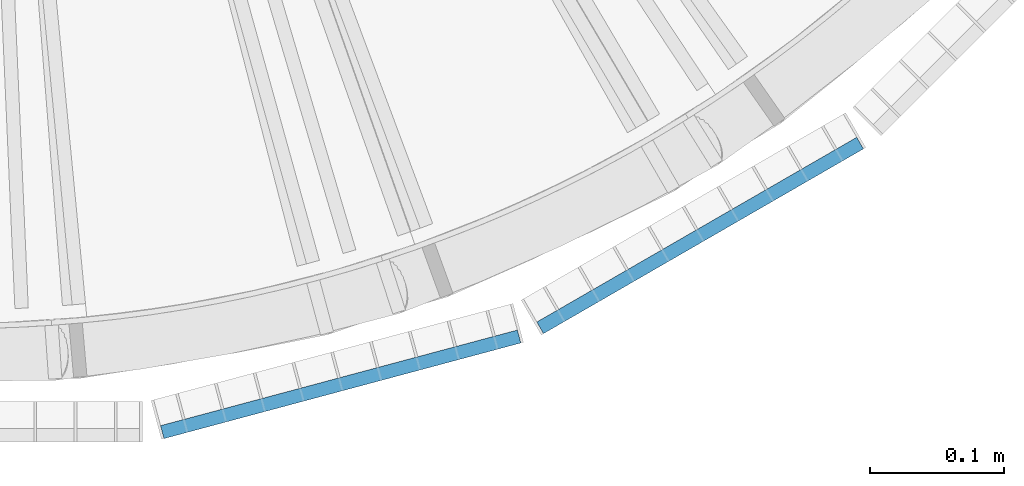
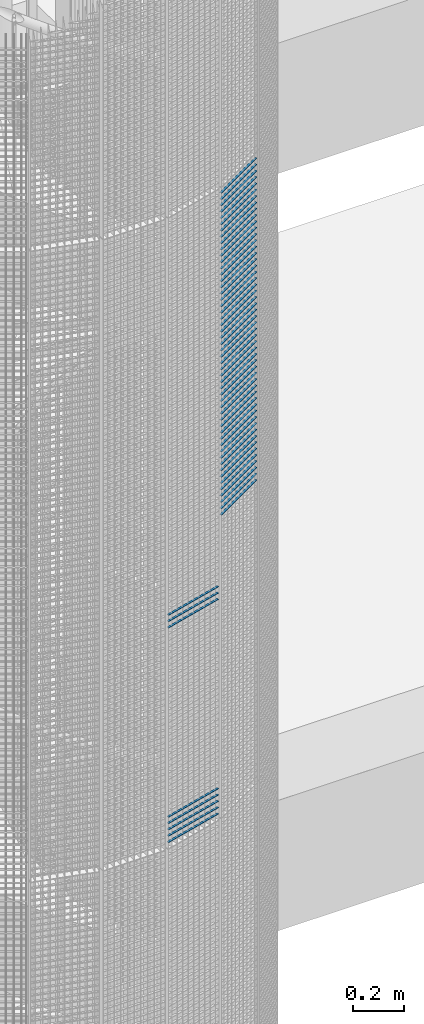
# One storey, part 391 of 1148: 60 beams, 2 elements without a shape of their own.
"""IFC2X3 building model written with IfcOpenShell, lengths in millimetres."""

from ifc_helpers import new_model, si_unit, frame, origin_with_axes, origin_2d_with_axis, place, context, subcontext, project, spatial, rectangle, extrude, material, type_object, element, aggregate, save


model = new_model("IFC2X3")

# Units and contexts
model_context = context("Model", 3, precision=1e-05, world=origin_with_axes())
body_context = subcontext(model_context, "Body", "Model", "MODEL_VIEW")
ifc_project = project(units=[si_unit("LENGTHUNIT", "METRE", prefix="MILLI"), si_unit("AREAUNIT", "SQUARE_METRE"), si_unit("VOLUMEUNIT", "CUBIC_METRE"), si_unit("MASSUNIT", "GRAM", prefix="KILO"), si_unit("TIMEUNIT", "SECOND"), si_unit("PLANEANGLEUNIT", "RADIAN"), si_unit("SOLIDANGLEUNIT", "STERADIAN"), si_unit("THERMODYNAMICTEMPERATUREUNIT", "DEGREE_CELSIUS"), si_unit("LUMINOUSINTENSITYUNIT", "LUMEN")], contexts=[model_context])

# Site, building, storey
site_placement = place(None, origin_with_axes())
site = spatial("IfcSite", under=ifc_project, at=site_placement, Name="Undefined", CompositionType="ELEMENT")
building_placement = place(site_placement, origin_with_axes())
building = spatial("IfcBuilding", under=site, at=building_placement, Name="Undefined", CompositionType="ELEMENT")
storey_placement = place(building_placement, origin_with_axes())
storey = spatial("IfcBuildingStorey", under=building, at=storey_placement, Name="Undefined", CompositionType="ELEMENT", Elevation=0.0)

# Assembly, beams
assembly_1_placement = place(storey_placement, origin_with_axes())
assembly_1 = element("IfcElementAssembly", 1, at=assembly_1_placement, inside=storey, Name="BORDURE", AssemblyPlace="NOTDEFINED", PredefinedType="NOTDEFINED")
ifc_material = material(Name="STEEL/S235JR")
beam_type = type_object("IfcBeamType", Name="PL2*10", PredefinedType="NOTDEFINED")
beam_1_placement = place(assembly_1_placement, frame((22021.4837339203, -1039.82309522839, 10050.0), z_axis=(0.258819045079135, -0.965925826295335, 0.0), x_axis=(-0.965925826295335, -0.258819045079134, 0.0)))
beam_1 = element("IfcBeam", 2, at=beam_1_placement, type_object=beam_type, material=ifc_material, Name="ENTRETOISE", context=body_context, shape_type="SweptSolid", body=[
    extrude(rectangle(XDim=2.0, YDim=10.0, at=origin_2d_with_axis()), frame((275.999999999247, 9.09494701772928e-13, 1.53210777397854e-14), z_axis=(-1.0, 0.0, 0.0), x_axis=(0.0, -1.0, 0.0)), (0.0, 0.0, 1.0), 276.0),
])
beam_2_placement = place(assembly_1_placement, frame((22021.4837339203, -1039.82309522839, 9150.0), z_axis=(0.258819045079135, -0.965925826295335, 0.0), x_axis=(-0.965925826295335, -0.258819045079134, 0.0)))
beam_2 = element("IfcBeam", 3, at=beam_2_placement, type_object=beam_type, material=ifc_material, Name="ENTRETOISE", context=body_context, shape_type="SweptSolid", body=[
    extrude(rectangle(XDim=2.0, YDim=10.0, at=origin_2d_with_axis()), frame((275.999999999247, 9.09494701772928e-13, 1.53210777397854e-14), z_axis=(-1.0, 0.0, 0.0), x_axis=(0.0, -1.0, 0.0)), (0.0, 0.0, 1.0), 276.0),
])
beam_3_placement = place(assembly_1_placement, frame((22021.4837339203, -1039.82309522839, 9120.0), z_axis=(0.258819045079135, -0.965925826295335, 0.0), x_axis=(-0.965925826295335, -0.258819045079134, 0.0)))
beam_3 = element("IfcBeam", 4, at=beam_3_placement, type_object=beam_type, material=ifc_material, Name="ENTRETOISE", context=body_context, shape_type="SweptSolid", body=[
    extrude(rectangle(XDim=2.0, YDim=10.0, at=origin_2d_with_axis()), frame((275.999999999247, 9.09494701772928e-13, 1.53210777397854e-14), z_axis=(-1.0, 0.0, 0.0), x_axis=(0.0, -1.0, 0.0)), (0.0, 0.0, 1.0), 276.0),
])
beam_4_placement = place(assembly_1_placement, frame((22021.4837339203, -1039.82309522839, 10080.0), z_axis=(0.258819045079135, -0.965925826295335, 0.0), x_axis=(-0.965925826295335, -0.258819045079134, 0.0)))
beam_4 = element("IfcBeam", 5, at=beam_4_placement, type_object=beam_type, material=ifc_material, Name="ENTRETOISE", context=body_context, shape_type="SweptSolid", body=[
    extrude(rectangle(XDim=2.0, YDim=10.0, at=origin_2d_with_axis()), frame((275.999999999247, 9.09494701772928e-13, 1.53210777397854e-14), z_axis=(-1.0, 0.0, 0.0), x_axis=(0.0, -1.0, 0.0)), (0.0, 0.0, 1.0), 276.0),
])
beam_5_placement = place(assembly_1_placement, frame((22021.4837339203, -1039.82309522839, 9090.0), z_axis=(0.258819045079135, -0.965925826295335, 0.0), x_axis=(-0.965925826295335, -0.258819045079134, 0.0)))
beam_5 = element("IfcBeam", 6, at=beam_5_placement, type_object=beam_type, material=ifc_material, Name="ENTRETOISE", context=body_context, shape_type="SweptSolid", body=[
    extrude(rectangle(XDim=2.0, YDim=10.0, at=origin_2d_with_axis()), frame((275.999999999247, 9.09494701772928e-13, 1.53210777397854e-14), z_axis=(-1.0, 0.0, 0.0), x_axis=(0.0, -1.0, 0.0)), (0.0, 0.0, 1.0), 276.0),
])
beam_6_placement = place(assembly_1_placement, frame((22021.4837339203, -1039.82309522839, 9060.0), z_axis=(0.258819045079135, -0.965925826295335, 0.0), x_axis=(-0.965925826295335, -0.258819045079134, 0.0)))
beam_6 = element("IfcBeam", 7, at=beam_6_placement, type_object=beam_type, material=ifc_material, Name="ENTRETOISE", context=body_context, shape_type="SweptSolid", body=[
    extrude(rectangle(XDim=2.0, YDim=10.0, at=origin_2d_with_axis()), frame((275.999999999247, 9.09494701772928e-13, 1.53210777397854e-14), z_axis=(-1.0, 0.0, 0.0), x_axis=(0.0, -1.0, 0.0)), (0.0, 0.0, 1.0), 276.0),
])
beam_7_placement = place(assembly_1_placement, frame((22021.4837339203, -1039.82309522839, 10110.0), z_axis=(0.258819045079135, -0.965925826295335, 0.0), x_axis=(-0.965925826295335, -0.258819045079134, 0.0)))
beam_7 = element("IfcBeam", 8, at=beam_7_placement, type_object=beam_type, material=ifc_material, Name="ENTRETOISE", context=body_context, shape_type="SweptSolid", body=[
    extrude(rectangle(XDim=2.0, YDim=10.0, at=origin_2d_with_axis()), frame((275.999999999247, 9.09494701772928e-13, 1.53210777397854e-14), z_axis=(-1.0, 0.0, 0.0), x_axis=(0.0, -1.0, 0.0)), (0.0, 0.0, 1.0), 276.0),
])
beam_8_placement = place(assembly_1_placement, frame((22021.4837339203, -1039.82309522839, 9030.0), z_axis=(0.258819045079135, -0.965925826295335, 0.0), x_axis=(-0.965925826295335, -0.258819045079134, 0.0)))
beam_8 = element("IfcBeam", 9, at=beam_8_placement, type_object=beam_type, material=ifc_material, Name="ENTRETOISE", context=body_context, shape_type="SweptSolid", body=[
    extrude(rectangle(XDim=2.0, YDim=10.0, at=origin_2d_with_axis()), frame((275.999999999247, 9.09494701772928e-13, 1.53210777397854e-14), z_axis=(-1.0, 0.0, 0.0), x_axis=(0.0, -1.0, 0.0)), (0.0, 0.0, 1.0), 276.0),
])
aggregate(assembly_1, [beam_1, beam_2, beam_3, beam_4, beam_5, beam_6, beam_7, beam_8])

assembly_2_placement = place(storey_placement, origin_with_axes())
assembly_2 = element("IfcElementAssembly", 10, at=assembly_2_placement, inside=storey, Name="BORDURE", AssemblyPlace="NOTDEFINED", PredefinedType="NOTDEFINED")
beam_9_placement = place(assembly_2_placement, frame((22276.2480445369, -895.303964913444, 11970.0), z_axis=(0.499999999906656, -0.866025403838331, 0.0), x_axis=(-0.866025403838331, -0.499999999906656, 0.0)))
beam_9 = element("IfcBeam", 11, at=beam_9_placement, type_object=beam_type, material=ifc_material, Name="ENTRETOISE", context=body_context, shape_type="SweptSolid", body=[
    extrude(rectangle(XDim=2.0, YDim=10.0, at=origin_2d_with_axis()), frame((275.999999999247, 9.09494701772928e-13, 1.53210777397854e-14), z_axis=(-1.0, 0.0, 0.0), x_axis=(0.0, -1.0, 0.0)), (0.0, 0.0, 1.0), 276.0),
])
beam_10_placement = place(assembly_2_placement, frame((22276.2480445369, -895.303964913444, 11940.0), z_axis=(0.499999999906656, -0.866025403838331, 0.0), x_axis=(-0.866025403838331, -0.499999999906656, 0.0)))
beam_10 = element("IfcBeam", 12, at=beam_10_placement, type_object=beam_type, material=ifc_material, Name="ENTRETOISE", context=body_context, shape_type="SweptSolid", body=[
    extrude(rectangle(XDim=2.0, YDim=10.0, at=origin_2d_with_axis()), frame((275.999999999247, 9.09494701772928e-13, 1.53210777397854e-14), z_axis=(-1.0, 0.0, 0.0), x_axis=(0.0, -1.0, 0.0)), (0.0, 0.0, 1.0), 276.0),
])
beam_11_placement = place(assembly_2_placement, frame((22276.2480445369, -895.303964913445, 11910.0), z_axis=(0.499999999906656, -0.866025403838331, 0.0), x_axis=(-0.866025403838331, -0.499999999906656, 0.0)))
beam_11 = element("IfcBeam", 13, at=beam_11_placement, type_object=beam_type, material=ifc_material, Name="ENTRETOISE", context=body_context, shape_type="SweptSolid", body=[
    extrude(rectangle(XDim=2.0, YDim=10.0, at=origin_2d_with_axis()), frame((275.999999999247, 9.09494701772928e-13, 1.53210777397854e-14), z_axis=(-1.0, 0.0, 0.0), x_axis=(0.0, -1.0, 0.0)), (0.0, 0.0, 1.0), 276.0),
])
beam_12_placement = place(assembly_2_placement, frame((22276.2480445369, -895.303964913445, 11880.0), z_axis=(0.499999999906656, -0.866025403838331, 0.0), x_axis=(-0.866025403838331, -0.499999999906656, 0.0)))
beam_12 = element("IfcBeam", 14, at=beam_12_placement, type_object=beam_type, material=ifc_material, Name="ENTRETOISE", context=body_context, shape_type="SweptSolid", body=[
    extrude(rectangle(XDim=2.0, YDim=10.0, at=origin_2d_with_axis()), frame((275.999999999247, 9.09494701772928e-13, 1.53210777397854e-14), z_axis=(-1.0, 0.0, 0.0), x_axis=(0.0, -1.0, 0.0)), (0.0, 0.0, 1.0), 276.0),
])
beam_13_placement = place(assembly_2_placement, frame((22276.2480445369, -895.303964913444, 11850.0), z_axis=(0.499999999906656, -0.866025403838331, 0.0), x_axis=(-0.866025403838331, -0.499999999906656, 0.0)))
beam_13 = element("IfcBeam", 15, at=beam_13_placement, type_object=beam_type, material=ifc_material, Name="ENTRETOISE", context=body_context, shape_type="SweptSolid", body=[
    extrude(rectangle(XDim=2.0, YDim=10.0, at=origin_2d_with_axis()), frame((275.999999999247, 9.09494701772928e-13, 1.53210777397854e-14), z_axis=(-1.0, 0.0, 0.0), x_axis=(0.0, -1.0, 0.0)), (0.0, 0.0, 1.0), 276.0),
])
beam_14_placement = place(assembly_2_placement, frame((22276.2480445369, -895.303964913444, 11820.0), z_axis=(0.499999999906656, -0.866025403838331, 0.0), x_axis=(-0.866025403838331, -0.499999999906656, 0.0)))
beam_14 = element("IfcBeam", 16, at=beam_14_placement, type_object=beam_type, material=ifc_material, Name="ENTRETOISE", context=body_context, shape_type="SweptSolid", body=[
    extrude(rectangle(XDim=2.0, YDim=10.0, at=origin_2d_with_axis()), frame((275.999999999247, 9.09494701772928e-13, 1.53210777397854e-14), z_axis=(-1.0, 0.0, 0.0), x_axis=(0.0, -1.0, 0.0)), (0.0, 0.0, 1.0), 276.0),
])
beam_15_placement = place(assembly_2_placement, frame((22276.2480445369, -895.303964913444, 11790.0), z_axis=(0.499999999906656, -0.866025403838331, 0.0), x_axis=(-0.866025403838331, -0.499999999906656, 0.0)))
beam_15 = element("IfcBeam", 17, at=beam_15_placement, type_object=beam_type, material=ifc_material, Name="ENTRETOISE", context=body_context, shape_type="SweptSolid", body=[
    extrude(rectangle(XDim=2.0, YDim=10.0, at=origin_2d_with_axis()), frame((275.999999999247, 9.09494701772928e-13, 1.53210777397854e-14), z_axis=(-1.0, 0.0, 0.0), x_axis=(0.0, -1.0, 0.0)), (0.0, 0.0, 1.0), 276.0),
])
beam_16_placement = place(assembly_2_placement, frame((22276.2480445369, -895.303964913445, 11760.0), z_axis=(0.499999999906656, -0.866025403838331, 0.0), x_axis=(-0.866025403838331, -0.499999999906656, 0.0)))
beam_16 = element("IfcBeam", 18, at=beam_16_placement, type_object=beam_type, material=ifc_material, Name="ENTRETOISE", context=body_context, shape_type="SweptSolid", body=[
    extrude(rectangle(XDim=2.0, YDim=10.0, at=origin_2d_with_axis()), frame((275.999999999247, 9.09494701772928e-13, 1.53210777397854e-14), z_axis=(-1.0, 0.0, 0.0), x_axis=(0.0, -1.0, 0.0)), (0.0, 0.0, 1.0), 276.0),
])
beam_17_placement = place(assembly_2_placement, frame((22276.2480445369, -895.303964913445, 11730.0), z_axis=(0.499999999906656, -0.866025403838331, 0.0), x_axis=(-0.866025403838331, -0.499999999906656, 0.0)))
beam_17 = element("IfcBeam", 19, at=beam_17_placement, type_object=beam_type, material=ifc_material, Name="ENTRETOISE", context=body_context, shape_type="SweptSolid", body=[
    extrude(rectangle(XDim=2.0, YDim=10.0, at=origin_2d_with_axis()), frame((275.999999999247, 9.09494701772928e-13, 1.53210777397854e-14), z_axis=(-1.0, 0.0, 0.0), x_axis=(0.0, -1.0, 0.0)), (0.0, 0.0, 1.0), 276.0),
])
beam_18_placement = place(assembly_2_placement, frame((22276.2480445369, -895.303964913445, 11700.0), z_axis=(0.499999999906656, -0.866025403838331, 0.0), x_axis=(-0.866025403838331, -0.499999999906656, 0.0)))
beam_18 = element("IfcBeam", 20, at=beam_18_placement, type_object=beam_type, material=ifc_material, Name="ENTRETOISE", context=body_context, shape_type="SweptSolid", body=[
    extrude(rectangle(XDim=2.0, YDim=10.0, at=origin_2d_with_axis()), frame((275.999999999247, 9.09494701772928e-13, 1.53210777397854e-14), z_axis=(-1.0, 0.0, 0.0), x_axis=(0.0, -1.0, 0.0)), (0.0, 0.0, 1.0), 276.0),
])
beam_19_placement = place(assembly_2_placement, frame((22276.2480445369, -895.303964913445, 11670.0), z_axis=(0.499999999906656, -0.866025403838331, 0.0), x_axis=(-0.866025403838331, -0.499999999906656, 0.0)))
beam_19 = element("IfcBeam", 21, at=beam_19_placement, type_object=beam_type, material=ifc_material, Name="ENTRETOISE", context=body_context, shape_type="SweptSolid", body=[
    extrude(rectangle(XDim=2.0, YDim=10.0, at=origin_2d_with_axis()), frame((275.999999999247, 9.09494701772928e-13, 1.53210777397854e-14), z_axis=(-1.0, 0.0, 0.0), x_axis=(0.0, -1.0, 0.0)), (0.0, 0.0, 1.0), 276.0),
])
beam_20_placement = place(assembly_2_placement, frame((22276.2480445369, -895.303964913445, 11640.0), z_axis=(0.499999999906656, -0.866025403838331, 0.0), x_axis=(-0.866025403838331, -0.499999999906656, 0.0)))
beam_20 = element("IfcBeam", 22, at=beam_20_placement, type_object=beam_type, material=ifc_material, Name="ENTRETOISE", context=body_context, shape_type="SweptSolid", body=[
    extrude(rectangle(XDim=2.0, YDim=10.0, at=origin_2d_with_axis()), frame((275.999999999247, 9.09494701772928e-13, 1.53210777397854e-14), z_axis=(-1.0, 0.0, 0.0), x_axis=(0.0, -1.0, 0.0)), (0.0, 0.0, 1.0), 276.0),
])
beam_21_placement = place(assembly_2_placement, frame((22276.2480445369, -895.303964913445, 11610.0), z_axis=(0.499999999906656, -0.866025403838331, 0.0), x_axis=(-0.866025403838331, -0.499999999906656, 0.0)))
beam_21 = element("IfcBeam", 23, at=beam_21_placement, type_object=beam_type, material=ifc_material, Name="ENTRETOISE", context=body_context, shape_type="SweptSolid", body=[
    extrude(rectangle(XDim=2.0, YDim=10.0, at=origin_2d_with_axis()), frame((275.999999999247, 9.09494701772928e-13, 1.53210777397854e-14), z_axis=(-1.0, 0.0, 0.0), x_axis=(0.0, -1.0, 0.0)), (0.0, 0.0, 1.0), 276.0),
])
beam_22_placement = place(assembly_2_placement, frame((22276.2480445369, -895.303964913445, 11580.0), z_axis=(0.499999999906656, -0.866025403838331, 0.0), x_axis=(-0.866025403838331, -0.499999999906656, 0.0)))
beam_22 = element("IfcBeam", 24, at=beam_22_placement, type_object=beam_type, material=ifc_material, Name="ENTRETOISE", context=body_context, shape_type="SweptSolid", body=[
    extrude(rectangle(XDim=2.0, YDim=10.0, at=origin_2d_with_axis()), frame((275.999999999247, 9.09494701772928e-13, 1.53210777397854e-14), z_axis=(-1.0, 0.0, 0.0), x_axis=(0.0, -1.0, 0.0)), (0.0, 0.0, 1.0), 276.0),
])
beam_23_placement = place(assembly_2_placement, frame((22276.2480445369, -895.303964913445, 11550.0), z_axis=(0.499999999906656, -0.866025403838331, 0.0), x_axis=(-0.866025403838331, -0.499999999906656, 0.0)))
beam_23 = element("IfcBeam", 25, at=beam_23_placement, type_object=beam_type, material=ifc_material, Name="ENTRETOISE", context=body_context, shape_type="SweptSolid", body=[
    extrude(rectangle(XDim=2.0, YDim=10.0, at=origin_2d_with_axis()), frame((275.999999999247, 9.09494701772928e-13, 1.53210777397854e-14), z_axis=(-1.0, 0.0, 0.0), x_axis=(0.0, -1.0, 0.0)), (0.0, 0.0, 1.0), 276.0),
])
beam_24_placement = place(assembly_2_placement, frame((22276.2480445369, -895.303964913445, 11520.0), z_axis=(0.499999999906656, -0.866025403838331, 0.0), x_axis=(-0.866025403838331, -0.499999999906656, 0.0)))
beam_24 = element("IfcBeam", 26, at=beam_24_placement, type_object=beam_type, material=ifc_material, Name="ENTRETOISE", context=body_context, shape_type="SweptSolid", body=[
    extrude(rectangle(XDim=2.0, YDim=10.0, at=origin_2d_with_axis()), frame((275.999999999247, 9.09494701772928e-13, 1.53210777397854e-14), z_axis=(-1.0, 0.0, 0.0), x_axis=(0.0, -1.0, 0.0)), (0.0, 0.0, 1.0), 276.0),
])
beam_25_placement = place(assembly_2_placement, frame((22276.2480445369, -895.303964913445, 11490.0), z_axis=(0.499999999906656, -0.866025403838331, 0.0), x_axis=(-0.866025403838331, -0.499999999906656, 0.0)))
beam_25 = element("IfcBeam", 27, at=beam_25_placement, type_object=beam_type, material=ifc_material, Name="ENTRETOISE", context=body_context, shape_type="SweptSolid", body=[
    extrude(rectangle(XDim=2.0, YDim=10.0, at=origin_2d_with_axis()), frame((275.999999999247, 9.09494701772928e-13, 1.53210777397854e-14), z_axis=(-1.0, 0.0, 0.0), x_axis=(0.0, -1.0, 0.0)), (0.0, 0.0, 1.0), 276.0),
])
beam_26_placement = place(assembly_2_placement, frame((22276.2480445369, -895.303964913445, 11460.0), z_axis=(0.499999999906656, -0.866025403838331, 0.0), x_axis=(-0.866025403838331, -0.499999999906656, 0.0)))
beam_26 = element("IfcBeam", 28, at=beam_26_placement, type_object=beam_type, material=ifc_material, Name="ENTRETOISE", context=body_context, shape_type="SweptSolid", body=[
    extrude(rectangle(XDim=2.0, YDim=10.0, at=origin_2d_with_axis()), frame((275.999999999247, 9.09494701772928e-13, 1.53210777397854e-14), z_axis=(-1.0, 0.0, 0.0), x_axis=(0.0, -1.0, 0.0)), (0.0, 0.0, 1.0), 276.0),
])
beam_27_placement = place(assembly_2_placement, frame((22276.2480445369, -895.303964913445, 11430.0), z_axis=(0.499999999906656, -0.866025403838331, 0.0), x_axis=(-0.866025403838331, -0.499999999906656, 0.0)))
beam_27 = element("IfcBeam", 29, at=beam_27_placement, type_object=beam_type, material=ifc_material, Name="ENTRETOISE", context=body_context, shape_type="SweptSolid", body=[
    extrude(rectangle(XDim=2.0, YDim=10.0, at=origin_2d_with_axis()), frame((275.999999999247, 9.09494701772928e-13, 1.53210777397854e-14), z_axis=(-1.0, 0.0, 0.0), x_axis=(0.0, -1.0, 0.0)), (0.0, 0.0, 1.0), 276.0),
])
beam_28_placement = place(assembly_2_placement, frame((22276.2480445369, -895.303964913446, 11400.0), z_axis=(0.499999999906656, -0.866025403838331, 0.0), x_axis=(-0.866025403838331, -0.499999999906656, 0.0)))
beam_28 = element("IfcBeam", 30, at=beam_28_placement, type_object=beam_type, material=ifc_material, Name="ENTRETOISE", context=body_context, shape_type="SweptSolid", body=[
    extrude(rectangle(XDim=2.0, YDim=10.0, at=origin_2d_with_axis()), frame((275.999999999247, 9.09494701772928e-13, 1.53210777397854e-14), z_axis=(-1.0, 0.0, 0.0), x_axis=(0.0, -1.0, 0.0)), (0.0, 0.0, 1.0), 276.0),
])
beam_29_placement = place(assembly_2_placement, frame((22276.2480445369, -895.303964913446, 11370.0), z_axis=(0.499999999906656, -0.866025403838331, 0.0), x_axis=(-0.866025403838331, -0.499999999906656, 0.0)))
beam_29 = element("IfcBeam", 31, at=beam_29_placement, type_object=beam_type, material=ifc_material, Name="ENTRETOISE", context=body_context, shape_type="SweptSolid", body=[
    extrude(rectangle(XDim=2.0, YDim=10.0, at=origin_2d_with_axis()), frame((275.999999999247, 9.09494701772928e-13, 1.53210777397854e-14), z_axis=(-1.0, 0.0, 0.0), x_axis=(0.0, -1.0, 0.0)), (0.0, 0.0, 1.0), 276.0),
])
beam_30_placement = place(assembly_2_placement, frame((22276.2480445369, -895.303964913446, 11340.0), z_axis=(0.499999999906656, -0.866025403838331, 0.0), x_axis=(-0.866025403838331, -0.499999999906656, 0.0)))
beam_30 = element("IfcBeam", 32, at=beam_30_placement, type_object=beam_type, material=ifc_material, Name="ENTRETOISE", context=body_context, shape_type="SweptSolid", body=[
    extrude(rectangle(XDim=2.0, YDim=10.0, at=origin_2d_with_axis()), frame((275.999999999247, 9.09494701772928e-13, 1.53210777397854e-14), z_axis=(-1.0, 0.0, 0.0), x_axis=(0.0, -1.0, 0.0)), (0.0, 0.0, 1.0), 276.0),
])
beam_31_placement = place(assembly_2_placement, frame((22276.2480445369, -895.303964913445, 11310.0), z_axis=(0.499999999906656, -0.866025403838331, 0.0), x_axis=(-0.866025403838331, -0.499999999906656, 0.0)))
beam_31 = element("IfcBeam", 33, at=beam_31_placement, type_object=beam_type, material=ifc_material, Name="ENTRETOISE", context=body_context, shape_type="SweptSolid", body=[
    extrude(rectangle(XDim=2.0, YDim=10.0, at=origin_2d_with_axis()), frame((275.999999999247, 9.09494701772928e-13, 1.53210777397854e-14), z_axis=(-1.0, 0.0, 0.0), x_axis=(0.0, -1.0, 0.0)), (0.0, 0.0, 1.0), 276.0),
])
beam_32_placement = place(assembly_2_placement, frame((22276.2480445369, -895.303964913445, 11280.0), z_axis=(0.499999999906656, -0.866025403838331, 0.0), x_axis=(-0.866025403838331, -0.499999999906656, 0.0)))
beam_32 = element("IfcBeam", 34, at=beam_32_placement, type_object=beam_type, material=ifc_material, Name="ENTRETOISE", context=body_context, shape_type="SweptSolid", body=[
    extrude(rectangle(XDim=2.0, YDim=10.0, at=origin_2d_with_axis()), frame((275.999999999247, 9.09494701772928e-13, 1.53210777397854e-14), z_axis=(-1.0, 0.0, 0.0), x_axis=(0.0, -1.0, 0.0)), (0.0, 0.0, 1.0), 276.0),
])
beam_33_placement = place(assembly_2_placement, frame((22276.2480445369, -895.303964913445, 11250.0), z_axis=(0.499999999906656, -0.866025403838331, 0.0), x_axis=(-0.866025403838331, -0.499999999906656, 0.0)))
beam_33 = element("IfcBeam", 35, at=beam_33_placement, type_object=beam_type, material=ifc_material, Name="ENTRETOISE", context=body_context, shape_type="SweptSolid", body=[
    extrude(rectangle(XDim=2.0, YDim=10.0, at=origin_2d_with_axis()), frame((275.999999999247, 9.09494701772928e-13, 1.53210777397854e-14), z_axis=(-1.0, 0.0, 0.0), x_axis=(0.0, -1.0, 0.0)), (0.0, 0.0, 1.0), 276.0),
])
beam_34_placement = place(assembly_2_placement, frame((22276.2480445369, -895.303964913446, 11220.0), z_axis=(0.499999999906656, -0.866025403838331, 0.0), x_axis=(-0.866025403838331, -0.499999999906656, 0.0)))
beam_34 = element("IfcBeam", 36, at=beam_34_placement, type_object=beam_type, material=ifc_material, Name="ENTRETOISE", context=body_context, shape_type="SweptSolid", body=[
    extrude(rectangle(XDim=2.0, YDim=10.0, at=origin_2d_with_axis()), frame((275.999999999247, 9.09494701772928e-13, 1.53210777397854e-14), z_axis=(-1.0, 0.0, 0.0), x_axis=(0.0, -1.0, 0.0)), (0.0, 0.0, 1.0), 276.0),
])
beam_35_placement = place(assembly_2_placement, frame((22276.2480445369, -895.303964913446, 11190.0), z_axis=(0.499999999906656, -0.866025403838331, 0.0), x_axis=(-0.866025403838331, -0.499999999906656, 0.0)))
beam_35 = element("IfcBeam", 37, at=beam_35_placement, type_object=beam_type, material=ifc_material, Name="ENTRETOISE", context=body_context, shape_type="SweptSolid", body=[
    extrude(rectangle(XDim=2.0, YDim=10.0, at=origin_2d_with_axis()), frame((275.999999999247, 9.09494701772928e-13, 1.53210777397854e-14), z_axis=(-1.0, 0.0, 0.0), x_axis=(0.0, -1.0, 0.0)), (0.0, 0.0, 1.0), 276.0),
])
beam_36_placement = place(assembly_2_placement, frame((22276.2480445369, -895.303964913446, 11160.0), z_axis=(0.499999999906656, -0.866025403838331, 0.0), x_axis=(-0.866025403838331, -0.499999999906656, 0.0)))
beam_36 = element("IfcBeam", 38, at=beam_36_placement, type_object=beam_type, material=ifc_material, Name="ENTRETOISE", context=body_context, shape_type="SweptSolid", body=[
    extrude(rectangle(XDim=2.0, YDim=10.0, at=origin_2d_with_axis()), frame((275.999999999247, 9.09494701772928e-13, 1.53210777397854e-14), z_axis=(-1.0, 0.0, 0.0), x_axis=(0.0, -1.0, 0.0)), (0.0, 0.0, 1.0), 276.0),
])
beam_37_placement = place(assembly_2_placement, frame((22276.2480445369, -895.303964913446, 11130.0), z_axis=(0.499999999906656, -0.866025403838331, 0.0), x_axis=(-0.866025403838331, -0.499999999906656, 0.0)))
beam_37 = element("IfcBeam", 39, at=beam_37_placement, type_object=beam_type, material=ifc_material, Name="ENTRETOISE", context=body_context, shape_type="SweptSolid", body=[
    extrude(rectangle(XDim=2.0, YDim=10.0, at=origin_2d_with_axis()), frame((275.999999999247, 9.09494701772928e-13, 1.53210777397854e-14), z_axis=(-1.0, 0.0, 0.0), x_axis=(0.0, -1.0, 0.0)), (0.0, 0.0, 1.0), 276.0),
])
beam_38_placement = place(assembly_2_placement, frame((22276.2480445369, -895.303964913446, 11100.0), z_axis=(0.499999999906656, -0.866025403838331, 0.0), x_axis=(-0.866025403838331, -0.499999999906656, 0.0)))
beam_38 = element("IfcBeam", 40, at=beam_38_placement, type_object=beam_type, material=ifc_material, Name="ENTRETOISE", context=body_context, shape_type="SweptSolid", body=[
    extrude(rectangle(XDim=2.0, YDim=10.0, at=origin_2d_with_axis()), frame((275.999999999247, 9.09494701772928e-13, 1.53210777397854e-14), z_axis=(-1.0, 0.0, 0.0), x_axis=(0.0, -1.0, 0.0)), (0.0, 0.0, 1.0), 276.0),
])
beam_39_placement = place(assembly_2_placement, frame((22276.2480445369, -895.303964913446, 11070.0), z_axis=(0.499999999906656, -0.866025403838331, 0.0), x_axis=(-0.866025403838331, -0.499999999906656, 0.0)))
beam_39 = element("IfcBeam", 41, at=beam_39_placement, type_object=beam_type, material=ifc_material, Name="ENTRETOISE", context=body_context, shape_type="SweptSolid", body=[
    extrude(rectangle(XDim=2.0, YDim=10.0, at=origin_2d_with_axis()), frame((275.999999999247, 9.09494701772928e-13, 1.53210777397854e-14), z_axis=(-1.0, 0.0, 0.0), x_axis=(0.0, -1.0, 0.0)), (0.0, 0.0, 1.0), 276.0),
])
beam_40_placement = place(assembly_2_placement, frame((22276.2480445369, -895.303964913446, 11040.0), z_axis=(0.499999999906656, -0.866025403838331, 0.0), x_axis=(-0.866025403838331, -0.499999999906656, 0.0)))
beam_40 = element("IfcBeam", 42, at=beam_40_placement, type_object=beam_type, material=ifc_material, Name="ENTRETOISE", context=body_context, shape_type="SweptSolid", body=[
    extrude(rectangle(XDim=2.0, YDim=10.0, at=origin_2d_with_axis()), frame((275.999999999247, 9.09494701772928e-13, 1.53210777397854e-14), z_axis=(-1.0, 0.0, 0.0), x_axis=(0.0, -1.0, 0.0)), (0.0, 0.0, 1.0), 276.0),
])
beam_41_placement = place(assembly_2_placement, frame((22276.2480445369, -895.303964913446, 11010.0), z_axis=(0.499999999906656, -0.866025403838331, 0.0), x_axis=(-0.866025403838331, -0.499999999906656, 0.0)))
beam_41 = element("IfcBeam", 43, at=beam_41_placement, type_object=beam_type, material=ifc_material, Name="ENTRETOISE", context=body_context, shape_type="SweptSolid", body=[
    extrude(rectangle(XDim=2.0, YDim=10.0, at=origin_2d_with_axis()), frame((275.999999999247, 9.09494701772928e-13, 1.53210777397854e-14), z_axis=(-1.0, 0.0, 0.0), x_axis=(0.0, -1.0, 0.0)), (0.0, 0.0, 1.0), 276.0),
])
beam_42_placement = place(assembly_2_placement, frame((22276.2480445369, -895.303964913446, 10980.0), z_axis=(0.499999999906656, -0.866025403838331, 0.0), x_axis=(-0.866025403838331, -0.499999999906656, 0.0)))
beam_42 = element("IfcBeam", 44, at=beam_42_placement, type_object=beam_type, material=ifc_material, Name="ENTRETOISE", context=body_context, shape_type="SweptSolid", body=[
    extrude(rectangle(XDim=2.0, YDim=10.0, at=origin_2d_with_axis()), frame((275.999999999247, 9.09494701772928e-13, 1.53210777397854e-14), z_axis=(-1.0, 0.0, 0.0), x_axis=(0.0, -1.0, 0.0)), (0.0, 0.0, 1.0), 276.0),
])
beam_43_placement = place(assembly_2_placement, frame((22276.2480445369, -895.303964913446, 10950.0), z_axis=(0.499999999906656, -0.866025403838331, 0.0), x_axis=(-0.866025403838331, -0.499999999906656, 0.0)))
beam_43 = element("IfcBeam", 45, at=beam_43_placement, type_object=beam_type, material=ifc_material, Name="ENTRETOISE", context=body_context, shape_type="SweptSolid", body=[
    extrude(rectangle(XDim=2.0, YDim=10.0, at=origin_2d_with_axis()), frame((275.999999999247, 9.09494701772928e-13, 1.53210777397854e-14), z_axis=(-1.0, 0.0, 0.0), x_axis=(0.0, -1.0, 0.0)), (0.0, 0.0, 1.0), 276.0),
])
beam_44_placement = place(assembly_2_placement, frame((22276.2480445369, -895.303964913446, 10920.0), z_axis=(0.499999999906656, -0.866025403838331, 0.0), x_axis=(-0.866025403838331, -0.499999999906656, 0.0)))
beam_44 = element("IfcBeam", 46, at=beam_44_placement, type_object=beam_type, material=ifc_material, Name="ENTRETOISE", context=body_context, shape_type="SweptSolid", body=[
    extrude(rectangle(XDim=2.0, YDim=10.0, at=origin_2d_with_axis()), frame((275.999999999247, 9.09494701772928e-13, 1.53210777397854e-14), z_axis=(-1.0, 0.0, 0.0), x_axis=(0.0, -1.0, 0.0)), (0.0, 0.0, 1.0), 276.0),
])
beam_45_placement = place(assembly_2_placement, frame((22276.2480445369, -895.303964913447, 10890.0), z_axis=(0.499999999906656, -0.866025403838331, 0.0), x_axis=(-0.866025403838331, -0.499999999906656, 0.0)))
beam_45 = element("IfcBeam", 47, at=beam_45_placement, type_object=beam_type, material=ifc_material, Name="ENTRETOISE", context=body_context, shape_type="SweptSolid", body=[
    extrude(rectangle(XDim=2.0, YDim=10.0, at=origin_2d_with_axis()), frame((275.999999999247, 9.09494701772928e-13, 1.53210777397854e-14), z_axis=(-1.0, 0.0, 0.0), x_axis=(0.0, -1.0, 0.0)), (0.0, 0.0, 1.0), 276.0),
])
beam_46_placement = place(assembly_2_placement, frame((22276.2480445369, -895.303964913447, 10860.0), z_axis=(0.499999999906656, -0.866025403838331, 0.0), x_axis=(-0.866025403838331, -0.499999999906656, 0.0)))
beam_46 = element("IfcBeam", 48, at=beam_46_placement, type_object=beam_type, material=ifc_material, Name="ENTRETOISE", context=body_context, shape_type="SweptSolid", body=[
    extrude(rectangle(XDim=2.0, YDim=10.0, at=origin_2d_with_axis()), frame((275.999999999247, 9.09494701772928e-13, 1.53210777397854e-14), z_axis=(-1.0, 0.0, 0.0), x_axis=(0.0, -1.0, 0.0)), (0.0, 0.0, 1.0), 276.0),
])
beam_47_placement = place(assembly_2_placement, frame((22276.2480445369, -895.303964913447, 10830.0), z_axis=(0.499999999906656, -0.866025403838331, 0.0), x_axis=(-0.866025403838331, -0.499999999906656, 0.0)))
beam_47 = element("IfcBeam", 49, at=beam_47_placement, type_object=beam_type, material=ifc_material, Name="ENTRETOISE", context=body_context, shape_type="SweptSolid", body=[
    extrude(rectangle(XDim=2.0, YDim=10.0, at=origin_2d_with_axis()), frame((275.999999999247, 9.09494701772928e-13, 1.53210777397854e-14), z_axis=(-1.0, 0.0, 0.0), x_axis=(0.0, -1.0, 0.0)), (0.0, 0.0, 1.0), 276.0),
])
beam_48_placement = place(assembly_2_placement, frame((22276.2480445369, -895.303964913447, 10800.0), z_axis=(0.499999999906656, -0.866025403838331, 0.0), x_axis=(-0.866025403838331, -0.499999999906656, 0.0)))
beam_48 = element("IfcBeam", 50, at=beam_48_placement, type_object=beam_type, material=ifc_material, Name="ENTRETOISE", context=body_context, shape_type="SweptSolid", body=[
    extrude(rectangle(XDim=2.0, YDim=10.0, at=origin_2d_with_axis()), frame((275.999999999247, 9.09494701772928e-13, 1.53210777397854e-14), z_axis=(-1.0, 0.0, 0.0), x_axis=(0.0, -1.0, 0.0)), (0.0, 0.0, 1.0), 276.0),
])
beam_49_placement = place(assembly_2_placement, frame((22276.2480445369, -895.303964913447, 10770.0), z_axis=(0.499999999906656, -0.866025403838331, 0.0), x_axis=(-0.866025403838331, -0.499999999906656, 0.0)))
beam_49 = element("IfcBeam", 51, at=beam_49_placement, type_object=beam_type, material=ifc_material, Name="ENTRETOISE", context=body_context, shape_type="SweptSolid", body=[
    extrude(rectangle(XDim=2.0, YDim=10.0, at=origin_2d_with_axis()), frame((275.999999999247, 9.09494701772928e-13, 1.53210777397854e-14), z_axis=(-1.0, 0.0, 0.0), x_axis=(0.0, -1.0, 0.0)), (0.0, 0.0, 1.0), 276.0),
])
beam_50_placement = place(assembly_2_placement, frame((22276.2480445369, -895.303964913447, 10740.0), z_axis=(0.499999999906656, -0.866025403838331, 0.0), x_axis=(-0.866025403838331, -0.499999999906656, 0.0)))
beam_50 = element("IfcBeam", 52, at=beam_50_placement, type_object=beam_type, material=ifc_material, Name="ENTRETOISE", context=body_context, shape_type="SweptSolid", body=[
    extrude(rectangle(XDim=2.0, YDim=10.0, at=origin_2d_with_axis()), frame((275.999999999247, 9.09494701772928e-13, 1.53210777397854e-14), z_axis=(-1.0, 0.0, 0.0), x_axis=(0.0, -1.0, 0.0)), (0.0, 0.0, 1.0), 276.0),
])
beam_51_placement = place(assembly_2_placement, frame((22276.2480445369, -895.303964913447, 10710.0), z_axis=(0.499999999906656, -0.866025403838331, 0.0), x_axis=(-0.866025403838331, -0.499999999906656, 0.0)))
beam_51 = element("IfcBeam", 53, at=beam_51_placement, type_object=beam_type, material=ifc_material, Name="ENTRETOISE", context=body_context, shape_type="SweptSolid", body=[
    extrude(rectangle(XDim=2.0, YDim=10.0, at=origin_2d_with_axis()), frame((275.999999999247, 9.09494701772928e-13, 1.53210777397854e-14), z_axis=(-1.0, 0.0, 0.0), x_axis=(0.0, -1.0, 0.0)), (0.0, 0.0, 1.0), 276.0),
])
beam_52_placement = place(assembly_2_placement, frame((22276.2480445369, -895.303964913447, 10680.0), z_axis=(0.499999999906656, -0.866025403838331, 0.0), x_axis=(-0.866025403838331, -0.499999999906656, 0.0)))
beam_52 = element("IfcBeam", 54, at=beam_52_placement, type_object=beam_type, material=ifc_material, Name="ENTRETOISE", context=body_context, shape_type="SweptSolid", body=[
    extrude(rectangle(XDim=2.0, YDim=10.0, at=origin_2d_with_axis()), frame((275.999999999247, 9.09494701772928e-13, 1.53210777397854e-14), z_axis=(-1.0, 0.0, 0.0), x_axis=(0.0, -1.0, 0.0)), (0.0, 0.0, 1.0), 276.0),
])
beam_53_placement = place(assembly_2_placement, frame((22276.2480445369, -895.303964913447, 10650.0), z_axis=(0.499999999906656, -0.866025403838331, 0.0), x_axis=(-0.866025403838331, -0.499999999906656, 0.0)))
beam_53 = element("IfcBeam", 55, at=beam_53_placement, type_object=beam_type, material=ifc_material, Name="ENTRETOISE", context=body_context, shape_type="SweptSolid", body=[
    extrude(rectangle(XDim=2.0, YDim=10.0, at=origin_2d_with_axis()), frame((275.999999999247, 9.09494701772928e-13, 1.53210777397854e-14), z_axis=(-1.0, 0.0, 0.0), x_axis=(0.0, -1.0, 0.0)), (0.0, 0.0, 1.0), 276.0),
])
beam_54_placement = place(assembly_2_placement, frame((22276.2480445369, -895.303964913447, 10620.0), z_axis=(0.499999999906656, -0.866025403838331, 0.0), x_axis=(-0.866025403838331, -0.499999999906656, 0.0)))
beam_54 = element("IfcBeam", 56, at=beam_54_placement, type_object=beam_type, material=ifc_material, Name="ENTRETOISE", context=body_context, shape_type="SweptSolid", body=[
    extrude(rectangle(XDim=2.0, YDim=10.0, at=origin_2d_with_axis()), frame((275.999999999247, 9.09494701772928e-13, 1.53210777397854e-14), z_axis=(-1.0, 0.0, 0.0), x_axis=(0.0, -1.0, 0.0)), (0.0, 0.0, 1.0), 276.0),
])
beam_55_placement = place(assembly_2_placement, frame((22276.2480445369, -895.303964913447, 10590.0), z_axis=(0.499999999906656, -0.866025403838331, 0.0), x_axis=(-0.866025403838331, -0.499999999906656, 0.0)))
beam_55 = element("IfcBeam", 57, at=beam_55_placement, type_object=beam_type, material=ifc_material, Name="ENTRETOISE", context=body_context, shape_type="SweptSolid", body=[
    extrude(rectangle(XDim=2.0, YDim=10.0, at=origin_2d_with_axis()), frame((275.999999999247, 9.09494701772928e-13, 1.53210777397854e-14), z_axis=(-1.0, 0.0, 0.0), x_axis=(0.0, -1.0, 0.0)), (0.0, 0.0, 1.0), 276.0),
])
beam_56_placement = place(assembly_2_placement, frame((22276.2480445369, -895.303964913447, 10560.0), z_axis=(0.499999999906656, -0.866025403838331, 0.0), x_axis=(-0.866025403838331, -0.499999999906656, 0.0)))
beam_56 = element("IfcBeam", 58, at=beam_56_placement, type_object=beam_type, material=ifc_material, Name="ENTRETOISE", context=body_context, shape_type="SweptSolid", body=[
    extrude(rectangle(XDim=2.0, YDim=10.0, at=origin_2d_with_axis()), frame((275.999999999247, 9.09494701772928e-13, 1.53210777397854e-14), z_axis=(-1.0, 0.0, 0.0), x_axis=(0.0, -1.0, 0.0)), (0.0, 0.0, 1.0), 276.0),
])
beam_57_placement = place(assembly_2_placement, frame((22276.2480445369, -895.303964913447, 10530.0), z_axis=(0.499999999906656, -0.866025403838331, 0.0), x_axis=(-0.866025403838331, -0.499999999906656, 0.0)))
beam_57 = element("IfcBeam", 59, at=beam_57_placement, type_object=beam_type, material=ifc_material, Name="ENTRETOISE", context=body_context, shape_type="SweptSolid", body=[
    extrude(rectangle(XDim=2.0, YDim=10.0, at=origin_2d_with_axis()), frame((275.999999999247, 9.09494701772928e-13, 1.53210777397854e-14), z_axis=(-1.0, 0.0, 0.0), x_axis=(0.0, -1.0, 0.0)), (0.0, 0.0, 1.0), 276.0),
])
beam_58_placement = place(assembly_2_placement, frame((22276.2480445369, -895.303964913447, 10500.0), z_axis=(0.499999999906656, -0.866025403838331, 0.0), x_axis=(-0.866025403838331, -0.499999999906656, 0.0)))
beam_58 = element("IfcBeam", 60, at=beam_58_placement, type_object=beam_type, material=ifc_material, Name="ENTRETOISE", context=body_context, shape_type="SweptSolid", body=[
    extrude(rectangle(XDim=2.0, YDim=10.0, at=origin_2d_with_axis()), frame((275.999999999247, 9.09494701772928e-13, 1.53210777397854e-14), z_axis=(-1.0, 0.0, 0.0), x_axis=(0.0, -1.0, 0.0)), (0.0, 0.0, 1.0), 276.0),
])
beam_59_placement = place(assembly_2_placement, frame((22276.2480445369, -895.303964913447, 10470.0), z_axis=(0.499999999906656, -0.866025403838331, 0.0), x_axis=(-0.866025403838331, -0.499999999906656, 0.0)))
beam_59 = element("IfcBeam", 61, at=beam_59_placement, type_object=beam_type, material=ifc_material, Name="ENTRETOISE", context=body_context, shape_type="SweptSolid", body=[
    extrude(rectangle(XDim=2.0, YDim=10.0, at=origin_2d_with_axis()), frame((275.999999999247, 9.09494701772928e-13, 1.53210777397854e-14), z_axis=(-1.0, 0.0, 0.0), x_axis=(0.0, -1.0, 0.0)), (0.0, 0.0, 1.0), 276.0),
])
beam_60_placement = place(assembly_2_placement, frame((22276.2480445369, -895.303964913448, 10440.0), z_axis=(0.499999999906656, -0.866025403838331, 0.0), x_axis=(-0.866025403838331, -0.499999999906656, 0.0)))
beam_60 = element("IfcBeam", 62, at=beam_60_placement, type_object=beam_type, material=ifc_material, Name="ENTRETOISE", context=body_context, shape_type="SweptSolid", body=[
    extrude(rectangle(XDim=2.0, YDim=10.0, at=origin_2d_with_axis()), frame((275.999999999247, 9.09494701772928e-13, 1.53210777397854e-14), z_axis=(-1.0, 0.0, 0.0), x_axis=(0.0, -1.0, 0.0)), (0.0, 0.0, 1.0), 276.0),
])
aggregate(assembly_2, [beam_9, beam_10, beam_11, beam_12, beam_13, beam_14, beam_15, beam_16, beam_17, beam_18, beam_19, beam_20, beam_21, beam_22, beam_23, beam_24, beam_25, beam_26, beam_27, beam_28, beam_29, beam_30, beam_31, beam_32, beam_33, beam_34, beam_35, beam_36, beam_37, beam_38, beam_39, beam_40, beam_41, beam_42, beam_43, beam_44, beam_45, beam_46, beam_47, beam_48, beam_49, beam_50, beam_51, beam_52, beam_53, beam_54, beam_55, beam_56, beam_57, beam_58, beam_59, beam_60])

save(model, "model.ifc")
